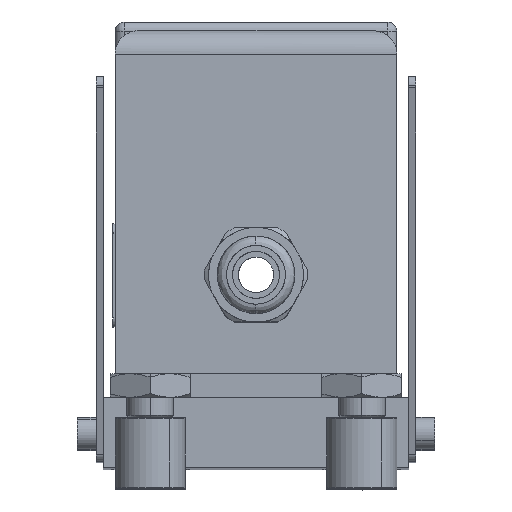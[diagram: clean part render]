
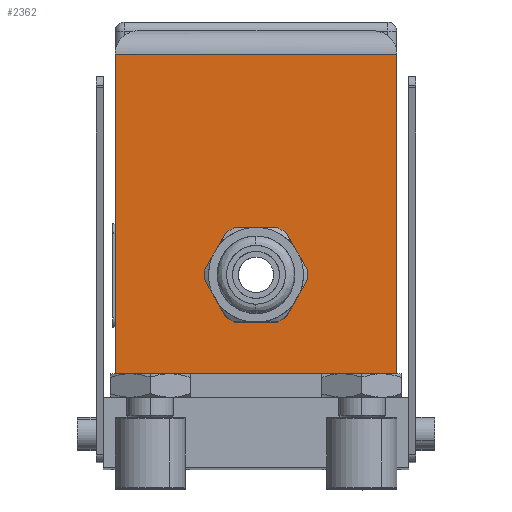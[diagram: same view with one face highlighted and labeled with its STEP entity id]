
A CAD part, top view. The second image highlights one B-rep face of the part: STEP entity #2362.
In plain terms, the highlighted planar face has unit normal (0, 0, 1).
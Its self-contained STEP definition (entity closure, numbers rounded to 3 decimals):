
#68 = CARTESIAN_POINT ( 'NONE',  ( 30., 41., 264. ) ) ;
#140 = ORIENTED_EDGE ( 'NONE', *, *, #518, .T. ) ;
#518 = EDGE_CURVE ( 'NONE', #12407, #8837, #19439, .T. ) ;
#976 = CARTESIAN_POINT ( 'NONE',  ( 30., 33.75, 264. ) ) ;
#1545 = EDGE_CURVE ( 'NONE', #8837, #2700, #15934, .T. ) ;
#1597 = ORIENTED_EDGE ( 'NONE', *, *, #1545, .T. ) ;
#1620 = DIRECTION ( 'NONE',  ( 0., 1., 0. ) ) ;
#2004 = ORIENTED_EDGE ( 'NONE', *, *, #18802, .F. ) ;
#2362 = ADVANCED_FACE ( 'NONE', ( #17096, #18531 ), #8323, .F. ) ;
#2565 = EDGE_CURVE ( 'NONE', #2700, #17850, #10365, .T. ) ;
#2700 = VERTEX_POINT ( 'NONE', #3895 ) ;
#3069 = VERTEX_POINT ( 'NONE', #976 ) ;
#3895 = CARTESIAN_POINT ( 'NONE',  ( 0., 20., 264. ) ) ;
#4290 = CARTESIAN_POINT ( 'NONE',  ( 0., 88., 264. ) ) ;
#4530 = VECTOR ( 'NONE', #19351, 1000. ) ;
#5069 = CARTESIAN_POINT ( 'NONE',  ( 60., 93., 264. ) ) ;
#5083 = AXIS2_PLACEMENT_3D ( 'NONE', #68, #10985, #1620 ) ;
#5663 = LINE ( 'NONE', #5069, #13260 ) ;
#5859 = DIRECTION ( 'NONE',  ( 1., 0., 0. ) ) ;
#5940 = CARTESIAN_POINT ( 'NONE',  ( 0., 20., 264. ) ) ;
#7150 = VECTOR ( 'NONE', #8284, 1000. ) ;
#7449 = DIRECTION ( 'NONE',  ( 0., 0., 1. ) ) ;
#7945 = CARTESIAN_POINT ( 'NONE',  ( 60., 20., 264. ) ) ;
#8105 = DIRECTION ( 'NONE',  ( -1., 0., 0. ) ) ;
#8128 = DIRECTION ( 'NONE',  ( 0., 0., -1. ) ) ;
#8161 = AXIS2_PLACEMENT_3D ( 'NONE', #8255, #8128, #8105 ) ;
#8180 = AXIS2_PLACEMENT_3D ( 'NONE', #16677, #7449, #18238 ) ;
#8255 = CARTESIAN_POINT ( 'NONE',  ( 0., 93., 264. ) ) ;
#8284 = DIRECTION ( 'NONE',  ( -1., 0., 0. ) ) ;
#8291 = CARTESIAN_POINT ( 'NONE',  ( 0., 88., 264. ) ) ;
#8323 = PLANE ( 'NONE',  #8161 ) ;
#8837 = VERTEX_POINT ( 'NONE', #4290 ) ;
#10236 = ORIENTED_EDGE ( 'NONE', *, *, #15279, .F. ) ;
#10337 = VECTOR ( 'NONE', #5859, 1000. ) ;
#10365 = LINE ( 'NONE', #5940, #10337 ) ;
#10985 = DIRECTION ( 'NONE',  ( 0., 0., 1. ) ) ;
#11584 = ORIENTED_EDGE ( 'NONE', *, *, #14724, .F. ) ;
#12407 = VERTEX_POINT ( 'NONE', #18812 ) ;
#12840 = DIRECTION ( 'NONE',  ( 0., -1., 0. ) ) ;
#13260 = VECTOR ( 'NONE', #12840, 1000. ) ;
#13668 = CIRCLE ( 'NONE', #5083, 7.25 ) ;
#14136 = CARTESIAN_POINT ( 'NONE',  ( 30., 48.25, 264. ) ) ;
#14708 = ORIENTED_EDGE ( 'NONE', *, *, #2565, .T. ) ;
#14724 = EDGE_CURVE ( 'NONE', #3069, #19848, #18648, .T. ) ;
#15279 = EDGE_CURVE ( 'NONE', #12407, #17850, #5663, .T. ) ;
#15934 = LINE ( 'NONE', #19399, #4530 ) ;
#16111 = EDGE_LOOP ( 'NONE', ( #2004, #11584 ) ) ;
#16677 = CARTESIAN_POINT ( 'NONE',  ( 30., 41., 264. ) ) ;
#17096 = FACE_BOUND ( 'NONE', #16111, .T. ) ;
#17850 = VERTEX_POINT ( 'NONE', #7945 ) ;
#18238 = DIRECTION ( 'NONE',  ( 0., 1., 0. ) ) ;
#18531 = FACE_OUTER_BOUND ( 'NONE', #19493, .T. ) ;
#18648 = CIRCLE ( 'NONE', #8180, 7.25 ) ;
#18802 = EDGE_CURVE ( 'NONE', #19848, #3069, #13668, .T. ) ;
#18812 = CARTESIAN_POINT ( 'NONE',  ( 60., 88., 264. ) ) ;
#19351 = DIRECTION ( 'NONE',  ( 0., -1., 0. ) ) ;
#19399 = CARTESIAN_POINT ( 'NONE',  ( 0., 93., 264. ) ) ;
#19439 = LINE ( 'NONE', #8291, #7150 ) ;
#19493 = EDGE_LOOP ( 'NONE', ( #10236, #140, #1597, #14708 ) ) ;
#19848 = VERTEX_POINT ( 'NONE', #14136 ) ;
